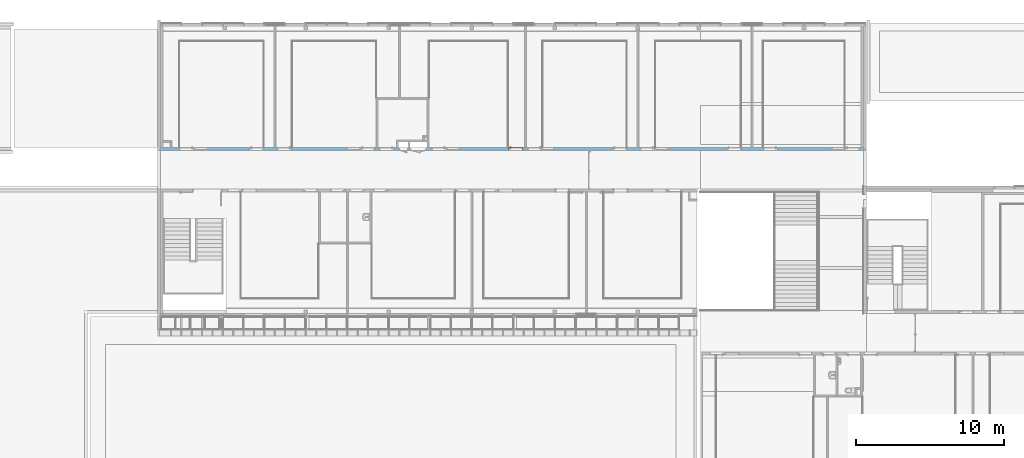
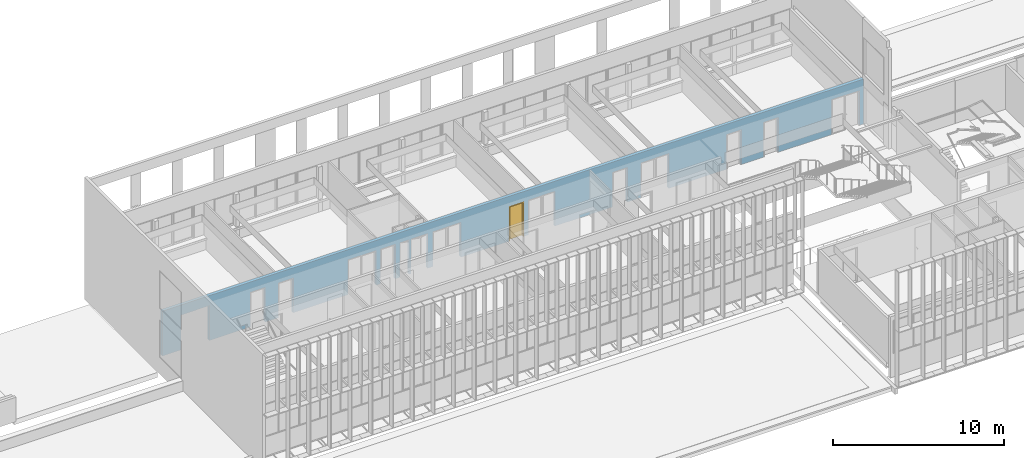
# One storey, part 54 of 106: 1 door, 21 openings, plus 1 element that does not belong to this part.
"""IFC2X3 building model written with IfcOpenShell, lengths in centimetres."""

from ifc_helpers import new_model, entity, si_unit, converted_unit, derived_unit, direction, frame, frame_2d, origin, place, context, subcontext, project, spatial, polyline, rectangle, extrude, clip, bounded_halfspace, faceted_brep, source, transform, mapped, material, material_list, layer, layer_set, layer_usage, type_object, type_shapes, element, fill, save


model = new_model("IFC2X3")

# Units and contexts
model_context = context("Model", 3, precision=0.001, world=origin(), true_north=direction((6.12303176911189e-17, 1.0)))
body_context = subcontext(model_context, "Body", "Model", "MODEL_VIEW")
ifc_project = project(units=[si_unit("LENGTHUNIT", "METRE", prefix="CENTI"), si_unit("AREAUNIT", "SQUARE_METRE"), si_unit("VOLUMEUNIT", "CUBIC_METRE"), converted_unit("PLANEANGLEUNIT", "DEGREE", entity("IfcRatioMeasure", 0.0174532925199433), si_unit("PLANEANGLEUNIT", "RADIAN"), dimensions=[0, 0, 0, 0, 0, 0, 0]), si_unit("MASSUNIT", "GRAM", prefix="KILO"), derived_unit("MASSDENSITYUNIT", [(si_unit("MASSUNIT", "GRAM", prefix="KILO"), 1), (si_unit("LENGTHUNIT", "METRE"), -3)]), si_unit("TIMEUNIT", "SECOND"), si_unit("FREQUENCYUNIT", "HERTZ"), si_unit("THERMODYNAMICTEMPERATUREUNIT", "DEGREE_CELSIUS"), derived_unit("THERMALTRANSMITTANCEUNIT", [(si_unit("MASSUNIT", "GRAM", prefix="KILO"), 1), (si_unit("THERMODYNAMICTEMPERATUREUNIT", "KELVIN"), -1), (si_unit("TIMEUNIT", "SECOND"), -3)]), derived_unit("VOLUMETRICFLOWRATEUNIT", [(si_unit("LENGTHUNIT", "METRE"), 3), (si_unit("TIMEUNIT", "SECOND"), -1)]), si_unit("ELECTRICCURRENTUNIT", "AMPERE"), si_unit("ELECTRICVOLTAGEUNIT", "VOLT"), si_unit("POWERUNIT", "WATT"), si_unit("FORCEUNIT", "NEWTON", prefix="KILO"), si_unit("ILLUMINANCEUNIT", "LUX"), si_unit("LUMINOUSFLUXUNIT", "LUMEN"), si_unit("LUMINOUSINTENSITYUNIT", "CANDELA"), derived_unit("USERDEFINED", [(si_unit("MASSUNIT", "GRAM", prefix="KILO"), -1), (si_unit("LENGTHUNIT", "METRE"), -2), (si_unit("TIMEUNIT", "SECOND"), 3), (si_unit("LUMINOUSFLUXUNIT", "LUMEN"), 1)]), derived_unit("LINEARVELOCITYUNIT", [(si_unit("LENGTHUNIT", "METRE"), 1), (si_unit("TIMEUNIT", "SECOND"), -1)]), si_unit("PRESSUREUNIT", "PASCAL"), derived_unit("USERDEFINED", [(si_unit("LENGTHUNIT", "METRE"), -2), (si_unit("MASSUNIT", "GRAM", prefix="KILO"), 1), (si_unit("TIMEUNIT", "SECOND"), -2)])], contexts=[model_context])

# Site, building, storey
site_placement = place(None, frame((-2781.94577612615, 7442.24238424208, 0.0)))
site = spatial("IfcSite", under=ifc_project, at=site_placement, Name="Default", CompositionType="ELEMENT")
building_placement = place(site_placement, origin())
building = spatial("IfcBuilding", under=site, at=building_placement, CompositionType="ELEMENT")
storey_placement = place(building_placement, frame((0.0, 0.0, 422.0)))
storey = spatial("IfcBuildingStorey", under=building, at=storey_placement, Name="Toiture - Cuisine", CompositionType="ELEMENT", Elevation=421.999999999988)

# Wall, openings, door
ifc_material_1 = material(Name="01 - Maçonnerie")
ifc_layer = layer(ifc_material_1, 20.0)
ifc_layer_set = layer_set([ifc_layer], Name="Mur de base:04 - Structure - béton - 20cm")
ifc_layer_usage = layer_usage(ifc_layer_set, "AXIS2", "NEGATIVE", 10.0)
wall_type = type_object("IfcWallType", Name="Mur de base:04 - Structure - béton - 20cm", PredefinedType="STANDARD", material=ifc_layer_set)
wall_placement = place(building_placement, frame((-8409.49987766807, -820.048500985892, 422.0)))
wall = element("IfcWallStandardCase", 1, at=wall_placement, inside=storey, type_object=wall_type, material=ifc_layer_usage, Name="Mur de base:04 - Structure - béton - 20cm", ObjectType="Mur de base:04 - Structure - béton - 20cm", context=body_context, shape_type="Clipping", body=[
    clip(extrude(rectangle(XDim=4741.49999798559, YDim=20.0, at=frame_2d((2370.74999899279, 2.04281036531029e-14), x_axis=(-1.0, 0.0))), origin(), (0.0, 0.0, 1.0), 321.0), bounded_halfspace(frame((4741.49999798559, -10.0, 321.0), z_axis=(0.0, 0.0, -1.0), x_axis=(0.0, 1.0, 0.0)), True, frame((4741.49999798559, -10.0, 321.0)), polyline([(0.0, 0.0), (0.0, 20.0), (-15.3000000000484, 20.0), (-125.300000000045, 20.0), (-127.300000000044, 20.0), (-675.800000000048, 20.0), (-677.800000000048, 20.0), (-745.800000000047, 20.0), (-755.800000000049, 20.0), (-825.800000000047, 20.0), (-827.800000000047, 20.0), (-1403.80000000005, 20.0), (-1405.80000000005, 20.0), (-1516.49999791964, 20.0), (-1526.49999791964, 20.0), (-1595.78709704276, 20.0), (-1597.78709704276, 20.0), (-2163.80000000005, 20.0), (-2165.80000000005, 20.0), (-2275.80000000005, 20.0), (-2285.80000000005, 20.0), (-2395.80000000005, 20.0), (-2397.80000000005, 20.0), (-2931.80000000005, 20.0), (-2941.80000000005, 20.0), (-3060.80000000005, 20.0), (-3070.80000000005, 20.0), (-3137.80000000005, 20.0), (-3147.80000000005, 20.0), (-3275.80000000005, 20.0), (-3285.80000000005, 20.0), (-3416.49999791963, 20.0), (-3535.80000000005, 20.0), (-3545.80000000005, 20.0), (-3611.80000000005, 20.0), (-3853.80000000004, 20.0), (-3855.80000000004, 20.0), (-3965.80000000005, 20.0), (-3975.80000000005, 20.0), (-4044.30000000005, 20.0), (-4046.30000000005, 20.0), (-4614.19999798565, 20.0), (-4616.19999798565, 20.0), (-4666.19999798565, 20.0), (-4676.19999798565, 20.0), (-4726.19999798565, 20.0), (-4741.49999798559, 20.0), (-4741.49999798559, 0.0), (-1854.0, 0.0), (-1844.0, 0.0), (-1840.0, 0.0), (0.0, 0.0)]))),
])
opening_1_placement = place(wall_placement, frame((1669.50000006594, 10.0, 0.0)))
element("IfcOpeningElement", 2, at=opening_1_placement, cuts=wall, Name="Int. Simple:PP Placard (0.55m x 2.50m):1", ObjectType="Opening", context=body_context, shape_type="SweptSolid", body=[
    extrude(rectangle(XDim=248.500000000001, YDim=61.9999999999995, at=frame_2d((124.250000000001, 30.9999999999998), x_axis=(1.0, 0.0))), frame((0.0, 0.0, 0.0), z_axis=(0.0, -1.0, 0.0), x_axis=(0.0, 0.0, 1.0)), (0.0, 0.0, 1.0), 20.0),
])
opening_2_placement = place(wall_placement, frame((1794.50000006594, 10.0, 0.0)))
element("IfcOpeningElement", 3, at=opening_2_placement, cuts=wall, Name="Int. Double:PP Placard (1.05m x 2.50m):1", ObjectType="Opening", context=body_context, shape_type="SweptSolid", body=[
    extrude(rectangle(XDim=248.500000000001, YDim=112.0, at=frame_2d((124.250000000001, 56.0000000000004), x_axis=(1.0, 0.0))), frame((0.0, 0.0, 0.0), z_axis=(0.0, -1.0, 0.0), x_axis=(0.0, 0.0, 1.0)), (0.0, 0.0, 1.0), 20.0),
])
opening_3_placement = place(wall_placement, frame((126.799999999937, -10.0, 0.0)))
element("IfcOpeningElement", 4, at=opening_3_placement, cuts=wall, Name="Int. Simple:PV (0.93m x 2.50m):1", ObjectType="Opening", context=body_context, shape_type="SweptSolid", body=[
    extrude(rectangle(XDim=248.500000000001, YDim=99.9999999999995, at=frame_2d((124.250000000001, 50.0), x_axis=(1.0, 0.0))), frame((0.0, 0.0, 0.0), z_axis=(0.0, 1.0, 0.0), x_axis=(0.0, 0.0, 1.0)), (0.0, 0.0, 1.0), 20.0),
])
opening_4_placement = place(wall_placement, frame((595.699997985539, -10.0, 0.0)))
element("IfcOpeningElement", 5, at=opening_4_placement, cuts=wall, Name="Int. Simple:PV (0.93m x 2.50m):1", ObjectType="Opening", context=body_context, shape_type="SweptSolid", body=[
    extrude(rectangle(XDim=248.500000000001, YDim=99.9999999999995, at=frame_2d((124.250000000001, 49.9999999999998), x_axis=(1.0, 0.0))), frame((0.0, 0.0, 0.0), z_axis=(0.0, 1.0, 0.0), x_axis=(0.0, 0.0, 1.0)), (0.0, 0.0, 1.0), 20.0),
])
opening_5_placement = place(wall_placement, frame((785.699997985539, -10.0, 0.0)))
element("IfcOpeningElement", 6, at=opening_5_placement, cuts=wall, Name="Int. Simple:PV (0.93m x 2.50m):1", ObjectType="Opening", context=body_context, shape_type="SweptSolid", body=[
    extrude(rectangle(XDim=248.500000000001, YDim=99.9999999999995, at=frame_2d((124.250000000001, 50.0), x_axis=(1.0, 0.0))), frame((0.0, 0.0, 0.0), z_axis=(0.0, 1.0, 0.0), x_axis=(0.0, 0.0, 1.0)), (0.0, 0.0, 1.0), 20.0),
])
opening_6_placement = place(wall_placement, frame((1345.69999798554, -10.0, 0.0)))
element("IfcOpeningElement", 7, at=opening_6_placement, cuts=wall, Name="Int. Simple:PV (0.93m x 2.50m):1", ObjectType="Opening", context=body_context, shape_type="SweptSolid", body=[
    extrude(rectangle(XDim=248.500000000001, YDim=99.9999999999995, at=frame_2d((124.250000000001, 49.9999999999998), x_axis=(1.0, 0.0))), frame((0.0, 0.0, 0.0), z_axis=(0.0, 1.0, 0.0), x_axis=(0.0, 0.0, 1.0)), (0.0, 0.0, 1.0), 20.0),
])
opening_7_placement = place(wall_placement, frame((1475.69999798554, -10.0, 0.0)))
element("IfcOpeningElement", 8, at=opening_7_placement, cuts=wall, Name="Int. Simple:PP simple (0.93m x 2.50m):1", ObjectType="Opening", context=body_context, shape_type="SweptSolid", body=[
    extrude(rectangle(XDim=248.500000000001, YDim=99.9999999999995, at=frame_2d((124.250000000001, 50.0), x_axis=(1.0, 0.0))), frame((0.0, 0.0, 0.0), z_axis=(0.0, 1.0, 0.0), x_axis=(0.0, 0.0, 1.0)), (0.0, 0.0, 1.0), 20.0),
])
opening_8_placement = place(wall_placement, frame((1829.69999798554, -10.0, 0.0)))
element("IfcOpeningElement", 9, at=opening_8_placement, cuts=wall, Name="Int. Simple:PV (0.93m x 2.50m):1", ObjectType="Opening", context=body_context, shape_type="SweptSolid", body=[
    extrude(rectangle(XDim=248.500000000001, YDim=99.9999999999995, at=frame_2d((124.250000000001, 50.0), x_axis=(1.0, 0.0))), frame((0.0, 0.0, 0.0), z_axis=(0.0, 1.0, 0.0), x_axis=(0.0, 0.0, 1.0)), (0.0, 0.0, 1.0), 20.0),
])
opening_9_placement = place(wall_placement, frame((2345.69999798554, -10.0, 0.0)))
opening_9 = element("IfcOpeningElement", 10, at=opening_9_placement, cuts=wall, Name="Int. Simple:PV (0.93m x 2.50m):1", ObjectType="Opening", context=body_context, shape_type="SweptSolid", body=[
    extrude(rectangle(XDim=248.500000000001, YDim=99.9999999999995, at=frame_2d((124.250000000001, 49.9999999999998), x_axis=(1.0, 0.0))), frame((0.0, 0.0, 0.0), z_axis=(0.0, 1.0, 0.0), x_axis=(0.0, 0.0, 1.0)), (0.0, 0.0, 1.0), 20.0),
])
opening_10_placement = place(wall_placement, frame((2475.69999798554, -10.0, 0.0)))
element("IfcOpeningElement", 11, at=opening_10_placement, cuts=wall, Name="Int. Simple:PV (0.93m x 2.50m):1", ObjectType="Opening", context=body_context, shape_type="SweptSolid", body=[
    extrude(rectangle(XDim=248.500000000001, YDim=99.9999999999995, at=frame_2d((124.250000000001, 50.0), x_axis=(1.0, 0.0))), frame((0.0, 0.0, 0.0), z_axis=(0.0, 1.0, 0.0), x_axis=(0.0, 0.0, 1.0)), (0.0, 0.0, 1.0), 20.0),
])
opening_11_placement = place(wall_placement, frame((3045.69999798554, -10.0, 0.0)))
element("IfcOpeningElement", 12, at=opening_11_placement, cuts=wall, Name="Int. Simple:PV (0.93m x 2.50m):1", ObjectType="Opening", context=body_context, shape_type="SweptSolid", body=[
    extrude(rectangle(XDim=248.500000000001, YDim=99.9999999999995, at=frame_2d((124.250000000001, 49.9999999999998), x_axis=(1.0, 0.0))), frame((0.0, 0.0, 0.0), z_axis=(0.0, 1.0, 0.0), x_axis=(0.0, 0.0, 1.0)), (0.0, 0.0, 1.0), 20.0),
])
opening_12_placement = place(wall_placement, frame((3235.69999798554, -10.0, 0.0)))
element("IfcOpeningElement", 13, at=opening_12_placement, cuts=wall, Name="Int. Simple:PV (0.93m x 2.50m):1", ObjectType="Opening", context=body_context, shape_type="SweptSolid", body=[
    extrude(rectangle(XDim=248.500000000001, YDim=99.9999999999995, at=frame_2d((124.250000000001, 50.0), x_axis=(1.0, 0.0))), frame((0.0, 0.0, 0.0), z_axis=(0.0, 1.0, 0.0), x_axis=(0.0, 0.0, 1.0)), (0.0, 0.0, 1.0), 20.0),
])
opening_13_placement = place(wall_placement, frame((3815.69999798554, -10.0, 0.0)))
element("IfcOpeningElement", 14, at=opening_13_placement, cuts=wall, Name="Int. Simple:PV (0.93m x 2.50m):1", ObjectType="Opening", context=body_context, shape_type="SweptSolid", body=[
    extrude(rectangle(XDim=248.500000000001, YDim=99.9999999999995, at=frame_2d((124.250000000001, 49.9999999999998), x_axis=(1.0, 0.0))), frame((0.0, 0.0, 0.0), z_axis=(0.0, 1.0, 0.0), x_axis=(0.0, 0.0, 1.0)), (0.0, 0.0, 1.0), 20.0),
])
opening_14_placement = place(wall_placement, frame((4065.69999798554, -10.0, 0.0)))
element("IfcOpeningElement", 15, at=opening_14_placement, cuts=wall, Name="Int. Simple:PV (0.93m x 2.50m):1", ObjectType="Opening", context=body_context, shape_type="SweptSolid", body=[
    extrude(rectangle(XDim=248.500000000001, YDim=99.9999999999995, at=frame_2d((124.250000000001, 50.0), x_axis=(1.0, 0.0))), frame((0.0, 0.0, 0.0), z_axis=(0.0, 1.0, 0.0), x_axis=(0.0, 0.0, 1.0)), (0.0, 0.0, 1.0), 20.0),
])
opening_15_placement = place(wall_placement, frame((4616.19999798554, -10.0, 0.0)))
element("IfcOpeningElement", 16, at=opening_15_placement, cuts=wall, Name="Int. Simple:PV (0.93m x 2.50m):1", ObjectType="Opening", context=body_context, shape_type="SweptSolid", body=[
    extrude(rectangle(XDim=248.500000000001, YDim=99.9999999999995, at=frame_2d((124.250000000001, 49.9999999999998), x_axis=(1.0, 0.0))), frame((0.0, 0.0, 0.0), z_axis=(0.0, 1.0, 0.0), x_axis=(0.0, 0.0, 1.0)), (0.0, 0.0, 1.0), 20.0),
])
opening_16_placement = place(wall_placement, frame((1255.69999798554, -10.0, 0.0)))
element("IfcOpeningElement", 17, at=opening_16_placement, cuts=wall, Name="châssis intérieur vitré:châssis intérieur vitré (h=270) R+1:1", ObjectType="Opening", context=body_context, shape_type="SweptSolid", body=[
    extrude(rectangle(XDim=250.0, YDim=89.9999999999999, at=frame_2d((125.0, 45.0), x_axis=(1.0, 0.0))), frame((0.0, 0.0, 0.0), z_axis=(0.0, 1.0, 0.0), x_axis=(0.0, 0.0, 1.0)), (0.0, 0.0, 1.0), 20.0),
])
opening_17_placement = place(wall_placement, frame((1929.69999798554, -10.0, 0.0)))
element("IfcOpeningElement", 18, at=opening_17_placement, cuts=wall, Name="châssis intérieur vitré:châssis intérieur vitré (h=270) R+1:1", ObjectType="Opening", context=body_context, shape_type="SweptSolid", body=[
    extrude(rectangle(XDim=250.0, YDim=89.9999999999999, at=frame_2d((125.0, 45.0), x_axis=(1.0, 0.0))), frame((0.0, 0.0, 0.0), z_axis=(0.0, 1.0, 0.0), x_axis=(0.0, 0.0, 1.0)), (0.0, 0.0, 1.0), 20.0),
])
opening_18_placement = place(wall_placement, frame((4526.19999798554, -10.0, 0.0)))
element("IfcOpeningElement", 19, at=opening_18_placement, cuts=wall, Name="châssis intérieur vitré:châssis intérieur vitré (h=270) R+1:1", ObjectType="Opening", context=body_context, shape_type="SweptSolid", body=[
    extrude(rectangle(XDim=250.0, YDim=89.9999999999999, at=frame_2d((125.0, 45.0000000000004), x_axis=(1.0, 0.0))), frame((0.0, 0.0, 0.0), z_axis=(0.0, 1.0, 0.0), x_axis=(0.0, 0.0, 1.0)), (0.0, 0.0, 1.0), 20.0),
])
opening_19_placement = place(wall_placement, frame((3335.69999798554, -10.0, 0.0)))
element("IfcOpeningElement", 20, at=opening_19_placement, cuts=wall, Name="châssis intérieur vitré:châssis intérieur vitré (h=270) R+1:1", ObjectType="Opening", context=body_context, shape_type="SweptSolid", body=[
    extrude(rectangle(XDim=250.0, YDim=89.9999999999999, at=frame_2d((125.0, 45.0000000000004), x_axis=(1.0, 0.0))), frame((0.0, 0.0, 0.0), z_axis=(0.0, 1.0, 0.0), x_axis=(0.0, 0.0, 1.0)), (0.0, 0.0, 1.0), 20.0),
])
opening_20_placement = place(wall_placement, frame((2565.69999798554, -10.0, 0.0)))
element("IfcOpeningElement", 21, at=opening_20_placement, cuts=wall, Name="châssis intérieur vitré:châssis intérieur vitré (h=270) R+1:1", ObjectType="Opening", context=body_context, shape_type="SweptSolid", body=[
    extrude(rectangle(XDim=250.0, YDim=89.9999999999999, at=frame_2d((125.0, 45.0000000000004), x_axis=(1.0, 0.0))), frame((0.0, 0.0, 0.0), z_axis=(0.0, 1.0, 0.0), x_axis=(0.0, 0.0, 1.0)), (0.0, 0.0, 1.0), 20.0),
])
opening_21_placement = place(wall_placement, frame((226.799999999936, -10.0, 0.0)))
element("IfcOpeningElement", 22, at=opening_21_placement, cuts=wall, Name="châssis intérieur vitré:châssis intérieur vitré (h=270) R+1:1", ObjectType="Opening", context=body_context, shape_type="SweptSolid", body=[
    extrude(rectangle(XDim=250.0, YDim=91.4999999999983, at=frame_2d((125.0, 45.7499999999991), x_axis=(1.0, 0.0))), frame((0.0, 0.0, 0.0), z_axis=(0.0, 1.0, 0.0), x_axis=(0.0, 0.0, 1.0)), (0.0, 0.0, 1.0), 20.0),
])
ifc_material_2 = material(Name="Finition Peinture - Blanc satiné")
ifc_material_3 = material(Name="Bois - Panneau de porte")
ifc_material_4 = material(Name="Bois - Cadre de porte")
ifc_material_list_1 = material_list([ifc_material_2, ifc_material_3, ifc_material_4])
ifc_material_list_2 = material_list([ifc_material_2, ifc_material_3, ifc_material_4])
door_style = type_object("IfcDoorStyle", Name="PV (0.93m x 2.50m)", ConstructionType="NOTDEFINED", OperationType="SINGLE_SWING_RIGHT", ParameterTakesPrecedence=False, Sizeable=False, material=ifc_material_list_2)
shared_shape = source(origin(), body_context, "Body", "Brep", [
    faceted_brep([(99.5000000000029, -0.500000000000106, 87.0), (99.5000000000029, -0.500000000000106, 108.0), (98.535276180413, -0.500000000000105, 108.399601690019), (97.5000000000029, -0.500000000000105, 108.535898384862), (96.4647238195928, -0.500000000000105, 108.399601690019), (95.500000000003, -0.500000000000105, 108.0), (95.5000000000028, -0.500000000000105, 87.0), (96.4647238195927, -0.500000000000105, 86.6003983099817), (97.5000000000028, -0.500000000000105, 86.464101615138), (98.5352761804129, -0.500000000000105, 86.6003983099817), (99.5000000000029, 0.0, 108.0), (99.5000000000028, 0.0, 87.0), (98.5352761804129, 0.0, 86.6003983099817), (97.5000000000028, 0.0, 86.464101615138), (96.4647238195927, 0.0, 86.6003983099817), (95.5000000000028, 0.0, 87.0), (95.5000000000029, 0.0, 108.0), (96.4647238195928, 0.0, 108.399601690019), (97.5000000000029, 0.0, 108.535898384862), (98.535276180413, 0.0, 108.399601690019)], [[[0, 1, 2, 3, 4, 5, 6, 7, 8, 9]], [[10, 11, 12, 13, 14, 15, 16, 17, 18, 19]], [[9, 12, 11, 0]], [[8, 13, 12, 9]], [[7, 14, 13, 8]], [[7, 6, 15, 14]], [[15, 6, 5, 16]], [[4, 17, 16, 5]], [[3, 18, 17, 4]], [[2, 19, 18, 3]], [[2, 1, 10, 19]], [[11, 10, 1, 0]]]),
    faceted_brep([(99.5000000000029, 4.0, 87.0), (99.5000000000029, 4.0, 108.0), (98.535276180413, 4.0, 108.399601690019), (97.5000000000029, 4.0, 108.535898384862), (96.4647238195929, 4.0, 108.399601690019), (95.500000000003, 4.0, 108.0), (95.5000000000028, 4.0, 87.0), (96.4647238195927, 4.0, 86.6003983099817), (97.5000000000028, 4.0, 86.464101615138), (98.5352761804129, 4.0, 86.6003983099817), (97.5000000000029, 4.49999999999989, 108.535898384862), (98.535276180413, 4.49999999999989, 108.399601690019), (99.5000000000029, 4.49999999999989, 108.0), (99.5000000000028, 4.49999999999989, 87.0), (98.5352761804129, 4.49999999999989, 86.6003983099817), (97.5000000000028, 4.49999999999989, 86.464101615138), (96.4647238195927, 4.49999999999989, 86.6003983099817), (95.5000000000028, 4.49999999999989, 87.0), (95.500000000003, 4.49999999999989, 108.0), (96.4647238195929, 4.49999999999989, 108.399601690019)], [[[0, 1, 2, 3, 4, 5, 6, 7, 8, 9]], [[10, 11, 12, 13, 14, 15, 16, 17, 18, 19]], [[4, 19, 18, 5]], [[3, 10, 19, 4]], [[2, 11, 10, 3]], [[2, 1, 12, 11]], [[13, 12, 1, 0]], [[9, 14, 13, 0]], [[8, 15, 14, 9]], [[7, 16, 15, 8]], [[7, 6, 17, 16]], [[17, 6, 5, 18]]]),
    faceted_brep([(97.2974701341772, -0.500000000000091, 100.778044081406), (97.7025298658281, -0.500000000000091, 100.778044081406), (98.1000000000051, -0.500000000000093, 100.699999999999), (98.100000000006, -0.500000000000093, 99.2999999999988), (97.7025298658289, -0.500000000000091, 99.221955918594), (97.297470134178, -0.500000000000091, 99.2219559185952), (96.9000000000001, -0.500000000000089, 99.3000000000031), (96.9000000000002, -0.500000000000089, 100.7), (97.7025298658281, -3.10045754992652, 100.778044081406), (98.1000000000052, -3.26509507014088, 100.7), (97.2974701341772, -2.93267631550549, 100.778044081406), (95.9298602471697, -4.30028620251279, 100.778044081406), (96.0976414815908, -4.70534593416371, 100.778044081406), (96.9000000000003, -2.76803879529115, 100.7), (96.9000000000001, -2.76803879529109, 99.3000000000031), (97.297470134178, -2.93267631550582, 99.2219559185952), (97.7025298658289, -3.10045754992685, 99.221955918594), (96.0976414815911, -4.70534593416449, 99.221955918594), (95.9298602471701, -4.30028620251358, 99.2219559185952), (98.100000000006, -3.26509507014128, 99.2999999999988), (96.2622790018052, -5.1028160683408, 100.7), (95.7652227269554, -3.90281606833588, 100.7), (95.7652227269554, -3.90281606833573, 99.3000000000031), (96.2622790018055, -5.10281606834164, 99.2999999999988), (87.4981359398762, -5.10281606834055, 100.7), (87.4981359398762, -4.70534593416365, 100.778044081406), (87.4981359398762, -4.30028620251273, 100.778044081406), (87.4981359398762, -3.90281606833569, 100.699999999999), (87.4981359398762, -3.90281606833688, 99.3000000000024), (87.4981359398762, -4.30028620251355, 99.2219559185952), (87.4981359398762, -4.70534593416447, 99.221955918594), (87.4981359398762, -5.10281606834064, 99.2999999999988), (91.7139980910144, -4.5028160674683, 100.78786867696), (92.2692302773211, -5.1028160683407, 100.7), (91.6316793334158, -3.9028160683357, 100.7), (91.631679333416, -3.90281606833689, 99.3000000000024), (91.7139981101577, -4.50281607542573, 99.2121313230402), (92.2692310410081, -5.10281606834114, 99.2999999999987)], [[[0, 1, 2, 3, 4, 5, 6, 7]], [[2, 1, 8, 9]], [[1, 0, 10, 11, 12, 8]], [[0, 7, 13, 10]], [[14, 13, 7, 6]], [[5, 15, 14, 6]], [[5, 4, 16, 17, 18, 15]], [[3, 19, 16, 4]], [[9, 19, 3, 2]], [[9, 8, 12, 20]], [[10, 13, 21, 11]], [[22, 21, 13, 14]], [[14, 15, 18, 22]], [[16, 19, 23, 17]], [[20, 23, 19, 9]], [[24, 25, 26, 27, 28, 29, 30, 31]], [[32, 25, 33]], [[33, 25, 24]], [[33, 20, 12]], [[11, 34, 32]], [[34, 11, 21]], [[27, 26, 34]], [[32, 26, 25]], [[32, 34, 26]], [[32, 33, 12]], [[11, 32, 12]], [[21, 22, 35, 28, 27, 34]], [[36, 29, 35]], [[30, 36, 37]], [[18, 35, 22]], [[29, 28, 35]], [[30, 37, 31]], [[37, 17, 23]], [[36, 17, 37]], [[36, 18, 17]], [[36, 35, 18]], [[29, 36, 30]], [[23, 20, 33, 24, 31, 37]]]),
    faceted_brep([(97.2974701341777, 4.49999999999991, 99.2219559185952), (97.7025298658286, 4.49999999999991, 99.221955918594), (98.1000000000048, 4.4999999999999, 99.2999999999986), (98.1000000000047, 4.4999999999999, 100.7), (97.7025298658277, 4.49999999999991, 100.778044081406), (97.2974701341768, 4.49999999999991, 100.778044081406), (96.8999999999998, 4.49999999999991, 100.7), (96.900000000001, 4.49999999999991, 99.3000000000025), (96.8999999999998, 6.7485204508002, 100.7), (96.8999999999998, 6.74852045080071, 99.3000000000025), (97.2974701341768, 6.91315797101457, 100.778044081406), (97.7025298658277, 7.0809392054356, 100.778044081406), (96.0838906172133, 8.69957845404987, 100.778044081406), (95.9161093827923, 8.29451872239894, 100.778044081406), (98.1000000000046, 7.24557672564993, 100.7), (98.1000000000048, 7.24557672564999, 99.2999999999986), (97.7025298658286, 7.08093920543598, 99.221955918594), (97.2974701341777, 6.91315797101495, 99.2219559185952), (95.9161093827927, 8.29451872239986, 99.2219559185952), (96.0838906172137, 8.69957845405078, 99.221955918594), (95.751471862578, 7.89704858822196, 100.7), (95.7514718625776, 7.89704858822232, 99.3000000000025), (96.2485281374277, 9.09704858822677, 100.7), (96.2485281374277, 9.09704858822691, 99.2999999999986), (87.4954216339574, 8.29451872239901, 100.778044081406), (87.4954216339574, 8.69957845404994, 100.778044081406), (87.4954216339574, 9.09704858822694, 100.7), (87.4954216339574, 9.09704858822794, 99.2999999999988), (87.4954216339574, 8.6995784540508, 99.221955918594), (87.4954216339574, 8.29451872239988, 99.2219559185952), (87.4954216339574, 7.89704858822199, 99.3000000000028), (87.4954216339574, 7.89704858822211, 100.7), (91.6234467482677, 7.89704858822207, 100.7), (91.6234479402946, 7.89704858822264, 99.3000000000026), (91.7057655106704, 8.49704858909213, 100.78786867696), (92.255479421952, 9.09704858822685, 100.7), (92.2554795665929, 9.09704858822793, 99.2999999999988), (91.7057654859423, 8.49704858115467, 99.2121313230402)], [[[0, 1, 2, 3, 4, 5, 6, 7]], [[8, 9, 7, 6]], [[5, 10, 8, 6]], [[5, 4, 11, 12, 13, 10]], [[3, 14, 11, 4]], [[14, 3, 2, 15]], [[2, 1, 16, 15]], [[1, 0, 17, 18, 19, 16]], [[0, 7, 9, 17]], [[20, 21, 9, 8]], [[8, 10, 13, 20]], [[14, 22, 12, 11]], [[23, 22, 14, 15]], [[15, 16, 19, 23]], [[17, 9, 21, 18]], [[24, 25, 26, 27, 28, 29, 30, 31]], [[21, 20, 32, 31, 30, 33]], [[34, 24, 32]], [[25, 34, 35]], [[13, 32, 20]], [[24, 31, 32]], [[25, 35, 26]], [[35, 12, 22]], [[34, 12, 35]], [[34, 13, 12]], [[34, 32, 13]], [[24, 34, 25]], [[22, 23, 36, 27, 26, 35]], [[37, 28, 36]], [[36, 28, 27]], [[36, 23, 19]], [[18, 33, 37]], [[33, 18, 21]], [[30, 29, 33]], [[37, 29, 28]], [[37, 33, 29]], [[37, 36, 19]], [[18, 37, 19]]]),
    faceted_brep([(103.500000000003, 4.0, 245.0), (103.500000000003, 4.0, 0.0), (10.5000000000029, 4.0, 0.0), (10.5000000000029, 4.0, 245.0), (103.500000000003, 0.0, 245.0), (10.5000000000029, 0.0, 245.0), (10.5000000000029, 0.0, 0.0), (103.500000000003, 0.0, 0.0)], [[[0, 1, 2, 3]], [[4, 5, 6, 7]], [[3, 5, 4, 0]], [[2, 6, 5, 3]], [[1, 7, 6, 2]], [[0, 4, 7, 1]]]),
    faceted_brep([(107.0, 20.0, 0.0), (107.0, 0.0, 0.0), (108.500000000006, 0.0, 0.0), (108.500000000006, -0.500000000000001, 0.0), (103.500000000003, -0.500000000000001, 0.0), (103.500000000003, 4.0, 0.0), (102.0, 4.0, 0.0), (102.0, 20.5000000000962, 0.0), (108.500000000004, 20.5000000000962, 0.0), (108.500000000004, 20.0, 0.0), (108.500000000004, 20.0, 250.0), (5.50000000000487, 20.0, 250.0), (5.50000000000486, 20.0, 0.0), (7.0, 20.0, 0.0), (7.0, 20.0, 248.500000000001), (107.0, 20.0, 248.500000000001), (108.500000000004, 20.5000000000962, 250.0), (102.0, 20.5000000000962, 243.5), (12.0, 20.5000000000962, 243.5), (12.0, 20.5000000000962, 0.0), (5.50000000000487, 20.5000000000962, 0.0), (5.50000000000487, 20.5000000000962, 250.0), (102.0, 4.0, 243.5), (103.500000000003, 4.0, 245.0), (10.5000000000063, 4.0, 245.0), (10.5000000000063, 4.0, 0.0), (12.0, 4.0, 0.0), (12.0, 4.0, 243.5), (103.500000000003, -0.500000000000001, 245.0), (108.500000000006, -0.500000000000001, 250.0), (5.5000000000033, -0.500000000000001, 250.0), (5.50000000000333, -0.500000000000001, 0.0), (10.5000000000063, -0.500000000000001, 0.0), (10.5000000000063, -0.500000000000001, 245.0), (108.500000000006, 0.0, 250.0), (107.0, 0.0, 248.500000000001), (7.0, 0.0, 248.500000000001), (7.0, 0.0, 0.0), (5.5000000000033, 0.0, 0.0), (5.50000000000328, 0.0, 250.0)], [[[0, 1, 2, 3, 4, 5, 6, 7, 8, 9]], [[9, 10, 11, 12, 13, 14, 15, 0]], [[8, 16, 10, 9]], [[7, 17, 18, 19, 20, 21, 16, 8]], [[7, 6, 22, 17]], [[5, 23, 24, 25, 26, 27, 22, 6]], [[5, 4, 28, 23]], [[3, 29, 30, 31, 32, 33, 28, 4]], [[2, 34, 29, 3]], [[1, 35, 36, 37, 38, 39, 34, 2]], [[0, 15, 35, 1]], [[14, 13, 37, 36]], [[13, 12, 20, 19, 26, 25, 32, 31, 38, 37]], [[21, 20, 12, 11]], [[27, 26, 19, 18]], [[33, 32, 25, 24]], [[39, 38, 31, 30]], [[16, 21, 11, 10]], [[22, 27, 18, 17]], [[28, 33, 24, 23]], [[34, 39, 30, 29]], [[15, 14, 36, 35]]]),
])
type_shapes(door_style, [shared_shape])
door_placement = place(opening_9_placement, frame((107.0, 20.0, 0.0), z_axis=(0.0, 0.0, 1.0), x_axis=(-1.0, 0.0, 0.0)))
door = element("IfcDoor", 23, at=door_placement, inside=storey, type_object=door_style, material=ifc_material_list_1, Name="Int. Simple:PV (0.93m x 2.50m)", ObjectType="Int. Simple:PV (0.93m x 2.50m)", OverallHeight=248.500000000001, OverallWidth=99.9999999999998, context=body_context, shape_type="MappedRepresentation", body=[
    mapped(shared_shape, transform((0.0, 0.0, 0.0), scale=1.0)),
])
fill(opening_9, door)

save(model, "model.ifc")
